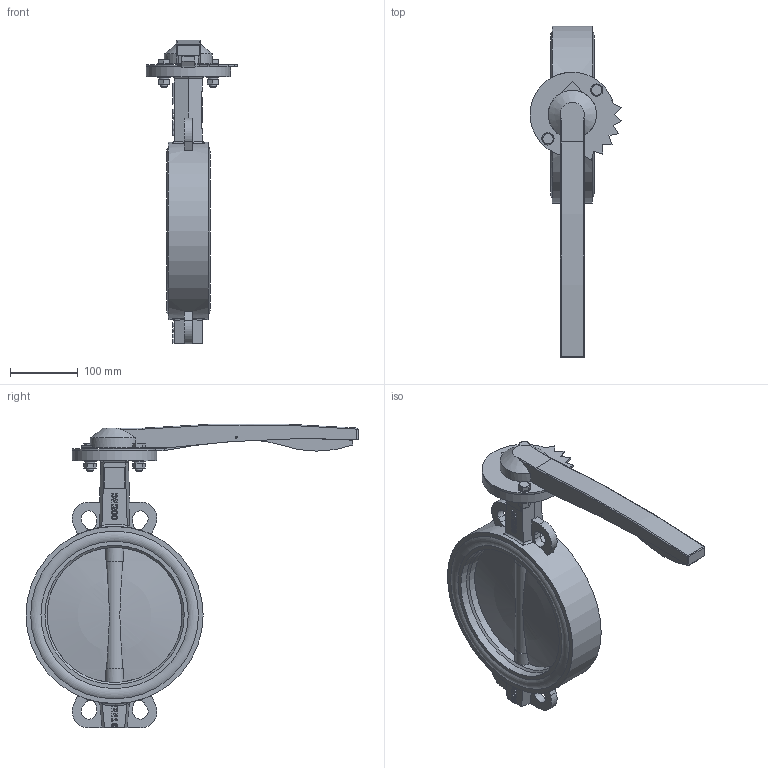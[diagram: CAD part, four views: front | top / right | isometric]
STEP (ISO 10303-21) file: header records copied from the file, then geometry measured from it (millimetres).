
FILE_DESCRIPTION(('STEP AP242'), '1');
FILE_NAME('Ïîâîðîòíûé çàòâîð ïîä ýëåêòðîïðèâîä', '', ('UNSPECIFIED'), ('UNSPECIFIED'), 'C3D Converter', 'C3D Toolkit', '');
FILE_SCHEMA(('AP242_MANAGED_MODEL_BASED_3D_ENGINEERING_MIM_LF { 1 0 10303 442 1 1 4 }'));
Length unit declared in the file: millimetre
Products named in the file (14): П
Assembly tree (20 placements, depth 3):
  (unnamed)
    (unnamed)
    П  x2
    (unnamed)
    (unnamed)
    (unnamed)
    (unnamed)
      (unnamed)
      (unnamed)
      (unnamed)
    (unnamed)  x2
    (unnamed)  x4
    (unnamed)  x2
    (unnamed)  x2
Bounding box: 135.83 x 491 x 449.28 mm (x, y, z)
Volume: 2566977 mm3; surface area: 603962.4 mm2
Topology: 19 solids, 19 shells, 581 faces, 1475 edges, 960 vertices
Faces by surface type: plane 288, extrusion 151, cylinder 98, cone 18, bspline 10, torus 10, sphere 6
Full cylindrical faces by diameter (mm): 3 x4, 6 x2, 8.376 x2, 10 x2, 11 x4, 11.421 x1, 12 x6, 18 x4, 22 x6, 28.31 x4, 31.113 x5, 33.941 x1, 125 x1, 200 x1, 205.96 x2, 217.88 x2, 232.987 x4, 248.093 x4, 262 x1
Entity records: 24149 total; most frequent: CARTESIAN_POINT 9056, ORIENTED_EDGE 2630, DIRECTION 2050, EDGE_CURVE 1315, VERTEX_POINT 900, VECTOR 832, LINE 681, EDGE_LOOP 671
